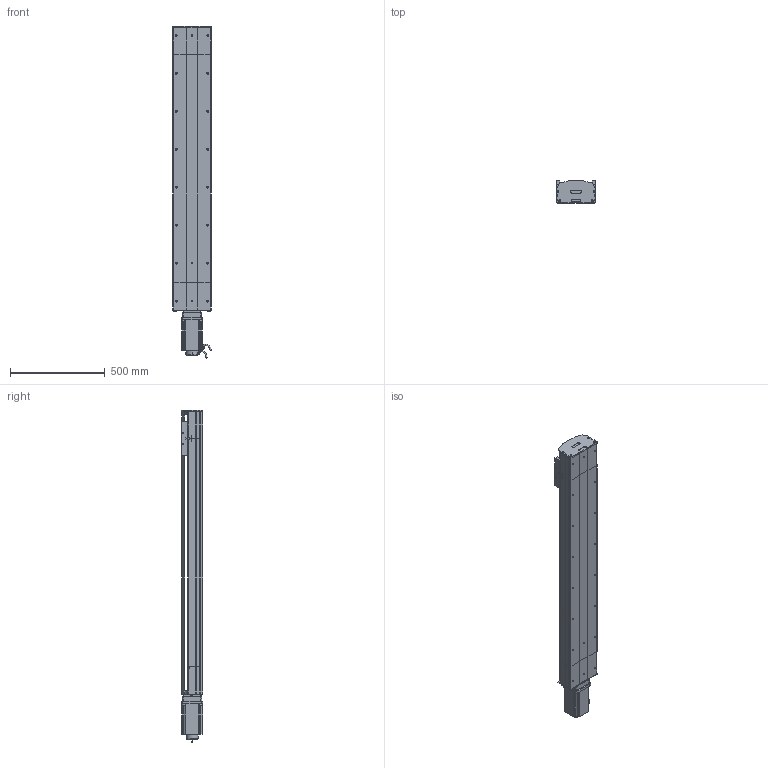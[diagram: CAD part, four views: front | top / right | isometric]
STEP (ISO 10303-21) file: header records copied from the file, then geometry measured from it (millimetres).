
FILE_DESCRIPTION (( 'STEP AP214' ), '1' );
FILE_NAME ('D20 TSH MD S1200.STEP', '2010-06-30T08:41:38', ( 'Conseil Régional Haute-Normandie' ), ( 'Conseil Régional Haute-Normandie' ), 'SwSTEP 2.0', 'SolidWorks 2010', '' );
FILE_SCHEMA (( 'AUTOMOTIVE_DESIGN' ));
Length unit declared in the file: millimetre
Products named in the file (33): tete d''axe haut D20; guide D20; vis M8 L12_Default; plaque de  bout tail D20_Default; Arbre+rail tail D20; tail D20 S_Default; corpl tail D20_Default; couvercle tail D20_Default; tete d''axe bas D20; chariot D20S_Default; vis M5 L8 90°_Default; vis M5 L12_Default; 2 vis M5 L12_Default; vis M5 L25_Default; Chariot D20; codeur 110BLDC170A-630x; Conecteur2_Default; corpl head MD D20_Default; clavette; Conecteur_Default; corp D20 S1200_Default; Arbre+rail head D20; head MD D20_Default; course D20 L1200_Default; plaque de  bout head MD D20_Default; Moteur motionking 110BLDC170A-640x; corps 110BLDC170A-630x; couvercle D20 S1200_Default; rail + arbre  D20 S1200; Plaque racord D20_Default; couvercle head l D20_Default; D20 TSH MD S1200; avant 110BLDC170A-630x
Assembly tree (56 placements, depth 4):
  D20 TSH MD S1200
    head MD D20_Default
      vis M8 L12_Default  x4
      2 vis M5 L12_Default  x6
      couvercle head l D20_Default
      vis M5 L12_Default  x4
      plaque de  bout head MD D20_Default
      vis M5 L25_Default  x2
      Plaque racord D20_Default
      Moteur motionking 110BLDC170A-640x
        clavette
        codeur 110BLDC170A-630x
        Conecteur_Default
        avant 110BLDC170A-630x
        corps 110BLDC170A-630x
        Conecteur2_Default
      Arbre+rail head D20
      corpl head MD D20_Default
    course D20 L1200_Default
      rail + arbre  D20 S1200
      corp D20 S1200_Default
      couvercle D20 S1200_Default
    chariot D20S_Default
      vis M5 L12_Default  x4
      Chariot D20
      guide D20  x2
    tail D20 S_Default
      2 vis M5 L12_Default  x4
      tete d''axe haut D20
      vis M5 L25_Default  x2
      vis M5 L8 90°_Default  x2
      Arbre+rail tail D20
      tete d''axe bas D20
      couvercle tail D20_Default
      plaque de  bout tail D20_Default
      corpl tail D20_Default
Bounding box: 206 x 115.7 x 1748.5 mm (x, y, z)
Volume: 13975105.9 mm3; surface area: 2955090.6 mm2
Topology: 81 solids, 81 shells, 2250 faces, 5694 edges, 3687 vertices
Faces by surface type: plane 1342, cylinder 632, bspline 136, torus 73, cone 67
Entity records: 74563 total; most frequent: CARTESIAN_POINT 24940, ORIENTED_EDGE 8792, DIRECTION 8181, EDGE_CURVE 4396, VECTOR 2901, LINE 2901, VERTEX_POINT 2899, AXIS2_PLACEMENT_3D 2640
